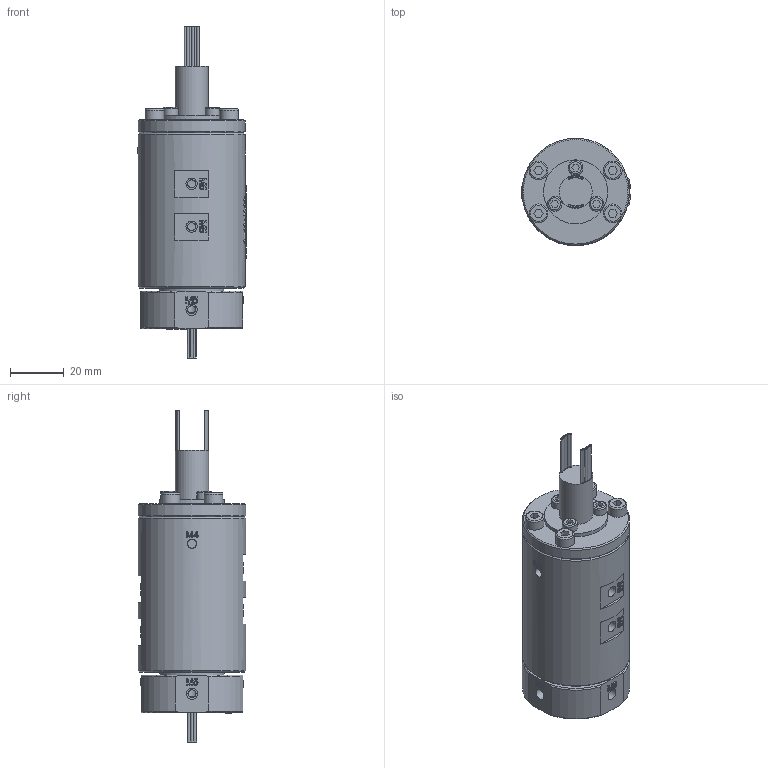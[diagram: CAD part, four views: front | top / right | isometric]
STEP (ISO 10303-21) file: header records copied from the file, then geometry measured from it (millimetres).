
FILE_DESCRIPTION(/* description */ (''),/* implementation_level */ '2;1');
FILE_NAME(/* name */ 'HQ04005-12M.stp',/* time_stamp */ '2025-09-01T15:44:44+08:00',/* author */ (''),/* organization */ (''),/* preprocessor_version */ 'ST-DEVELOPER v16.7',/* originating_system */ 'SIEMENS PLM Software NX 12.0',/* authorisation */ '');
FILE_SCHEMA (('AUTOMOTIVE_DESIGN { 1 0 10303 214 3 1 1 1 }'));
Length unit declared in the file: millimetre
Products named in the file (1): AdmiB44865CDwcvk
Bounding box: 40.68 x 40 x 123.9 mm (x, y, z)
Volume: 98229.8 mm3; surface area: 19267.5 mm2
Topology: 1 solids, 9 shells, 1227 faces, 3260 edges, 2172 vertices
Faces by surface type: plane 588, extrusion 453, cylinder 104, bspline 50, cone 25, torus 7
Full cylindrical faces by diameter (mm): 0.8 x24, 3 x11, 3.4 x9, 4 x8, 4.1 x4, 4.2 x12, 5 x1, 5.5 x3, 6 x1, 7 x4, 12.4 x1, 23.9 x1, 24 x1, 32 x1, 40 x2
Entity records: 44905 total; most frequent: CARTESIAN_POINT 18825, ORIENTED_EDGE 6188, DIRECTION 3379, EDGE_CURVE 3094, B_SPLINE_CURVE_WITH_KNOTS 2448, VERTEX_POINT 2119, EDGE_LOOP 1481, ADVANCED_FACE 1227
